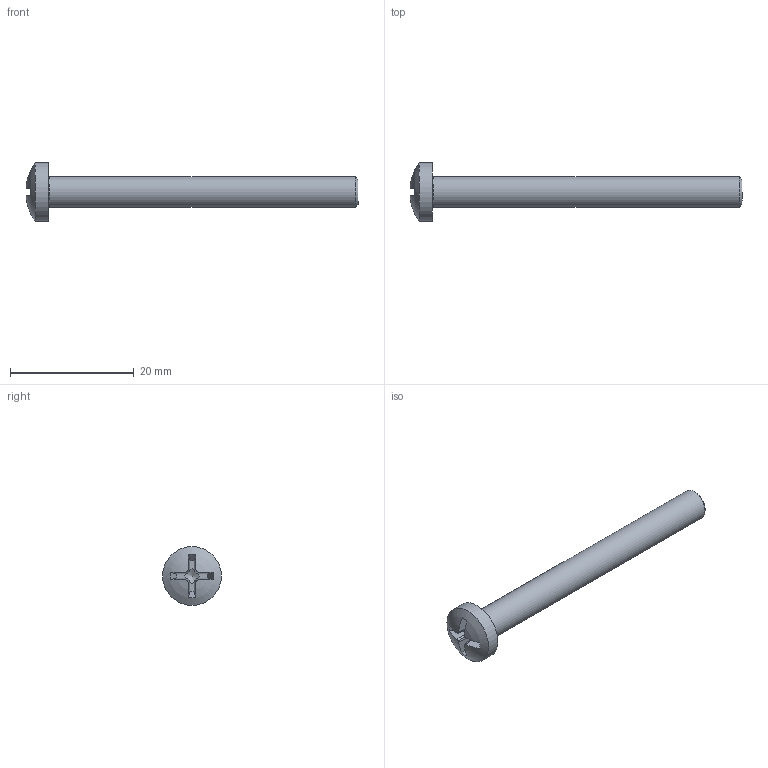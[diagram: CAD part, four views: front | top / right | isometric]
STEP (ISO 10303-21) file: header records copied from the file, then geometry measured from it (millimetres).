
FILE_DESCRIPTION(/* description */ ('STEP AP242 Edition 2','CAx-IF Rec.Pracs.---Representation and Presentation of Product Manufacturing Information (PMI)---4.0---2014-10-13','CAx-IF Rec.Pracs.---3D Tessellated Geometry---0.4---2014-09-14','2;1','CAx-IF Rec.Pracs.---User Defined Attributes---1.5---2016-08-15'),/* implementation_level */ '2;1');
FILE_NAME(/* name */ 'Final Build - M5x50',/* time_stamp */ '2026-08-31T23:26:19Z',/* author */ (''),/* organization */ (''),/* preprocessor_version */ 'ST-DEVELOPER v20',/* originating_system */ 'ONSHAPE BY PTC INC, 1.220',/* authorisation */ ' ');
FILE_SCHEMA (('AP242_MANAGED_MODEL_BASED_3D_ENGINEERING_MIM_LF { 1 0 10303 442 3 1 4 }'));
Length unit declared in the file: metre
Products named in the file (1): M5x50
Bounding box: 53.63 x 9.5 x 9.5 mm (x, y, z)
Volume: 1158.3 mm3; surface area: 1044 mm2
Topology: 1 solids, 1 shells, 32 faces, 88 edges, 58 vertices
Faces by surface type: plane 26, cylinder 2, cone 2, sphere 1, torus 1
Full cylindrical faces by diameter (mm): 5 x1, 9.5 x1
Entity records: 1002 total; most frequent: CARTESIAN_POINT 214, DIRECTION 158, ORIENTED_EDGE 156, EDGE_CURVE 78, AXIS2_PLACEMENT_3D 63, VERTEX_POINT 55, FACE_BOUND 39, EDGE_LOOP 38
